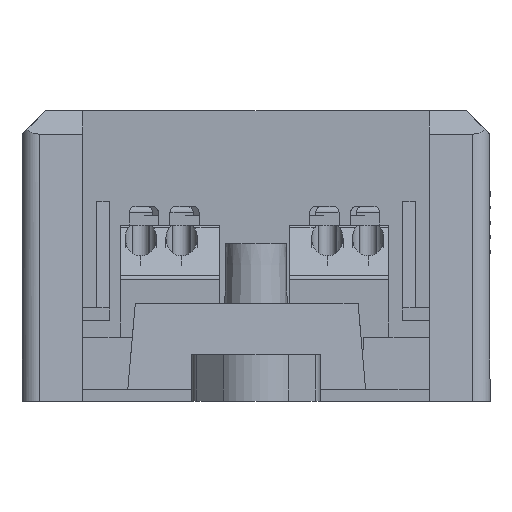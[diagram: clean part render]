
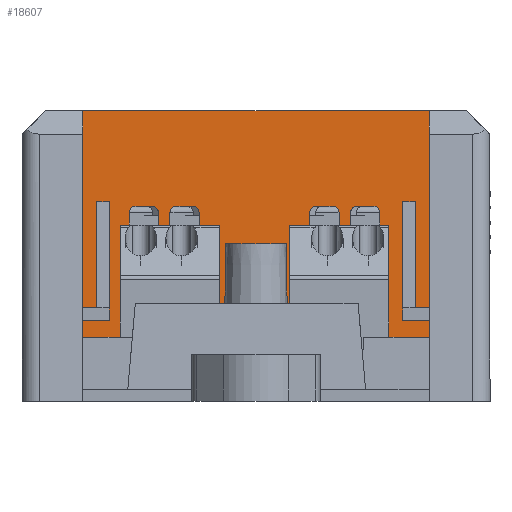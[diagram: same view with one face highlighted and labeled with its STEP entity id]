
A CAD part, front view. The second image highlights one B-rep face of the part: STEP entity #18607.
In plain terms, the highlighted planar face has unit normal (0, -1, 0).
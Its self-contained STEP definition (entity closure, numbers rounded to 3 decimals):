
#45 = LINE ( 'NONE', #4712, #7364 ) ;
#196 = CARTESIAN_POINT ( 'NONE',  ( 38.572, -174.461, 51.967 ) ) ;
#246 = ORIENTED_EDGE ( 'NONE', *, *, #13132, .T. ) ;
#424 = LINE ( 'NONE', #10207, #8206 ) ;
#501 = DIRECTION ( 'NONE',  ( 1., 0., 0. ) ) ;
#758 = VERTEX_POINT ( 'NONE', #4816 ) ;
#1325 = VERTEX_POINT ( 'NONE', #15543 ) ;
#1404 = VERTEX_POINT ( 'NONE', #14131 ) ;
#1443 = CARTESIAN_POINT ( 'NONE',  ( 7.732, -174.461, 51.967 ) ) ;
#1529 = VECTOR ( 'NONE', #13062, 1000. ) ;
#1707 = VECTOR ( 'NONE', #9755, 1000. ) ;
#1732 = CARTESIAN_POINT ( 'NONE',  ( 6.632, -174.461, 51.967 ) ) ;
#1783 = LINE ( 'NONE', #6853, #2237 ) ;
#2074 = VECTOR ( 'NONE', #13409, 1000. ) ;
#2237 = VECTOR ( 'NONE', #8331, 1000. ) ;
#2771 = CARTESIAN_POINT ( 'NONE',  ( 6.632, -174.461, 56.467 ) ) ;
#2775 = VERTEX_POINT ( 'NONE', #5600 ) ;
#2932 = DIRECTION ( 'NONE',  ( -1., 0., 0. ) ) ;
#2933 = CARTESIAN_POINT ( 'NONE',  ( 10.032, -174.461, 58.867 ) ) ;
#3414 = AXIS2_PLACEMENT_3D ( 'NONE', #1443, #11674, #2932 ) ;
#3819 = ORIENTED_EDGE ( 'NONE', *, *, #8112, .F. ) ;
#4667 = VERTEX_POINT ( 'NONE', #13271 ) ;
#4712 = CARTESIAN_POINT ( 'NONE',  ( 7.732, -174.461, 59.967 ) ) ;
#4816 = CARTESIAN_POINT ( 'NONE',  ( 6.632, -174.461, 58.867 ) ) ;
#5319 = ORIENTED_EDGE ( 'NONE', *, *, #16711, .T. ) ;
#5430 = EDGE_CURVE ( 'NONE', #10110, #2775, #45, .T. ) ;
#5586 = LINE ( 'NONE', #16894, #1707 ) ;
#5600 = CARTESIAN_POINT ( 'NONE',  ( 7.732, -174.461, 59.967 ) ) ;
#6217 = ORIENTED_EDGE ( 'NONE', *, *, #18600, .F. ) ;
#6341 = CARTESIAN_POINT ( 'NONE',  ( 37.472, -174.461, 76.867 ) ) ;
#6793 = ORIENTED_EDGE ( 'NONE', *, *, #7798, .T. ) ;
#6853 = CARTESIAN_POINT ( 'NONE',  ( 7.732, -174.461, 58.867 ) ) ;
#6938 = DIRECTION ( 'NONE',  ( 0., 0., -1. ) ) ;
#7070 = EDGE_CURVE ( 'NONE', #758, #11965, #424, .T. ) ;
#7176 = CARTESIAN_POINT ( 'NONE',  ( 10.032, -174.461, 58.867 ) ) ;
#7364 = VECTOR ( 'NONE', #17777, 1000. ) ;
#7457 = VERTEX_POINT ( 'NONE', #12584 ) ;
#7613 = VECTOR ( 'NONE', #18752, 1000. ) ;
#7798 = EDGE_CURVE ( 'NONE', #7457, #4667, #5586, .T. ) ;
#8067 = LINE ( 'NONE', #2933, #7613 ) ;
#8076 = ORIENTED_EDGE ( 'NONE', *, *, #14720, .T. ) ;
#8112 = EDGE_CURVE ( 'NONE', #17552, #1325, #18483, .T. ) ;
#8206 = VECTOR ( 'NONE', #18793, 1000. ) ;
#8274 = EDGE_CURVE ( 'NONE', #18694, #17163, #16223, .T. ) ;
#8331 = DIRECTION ( 'NONE',  ( 1., 0., 0. ) ) ;
#8440 = VECTOR ( 'NONE', #16929, 1000. ) ;
#8496 = EDGE_CURVE ( 'NONE', #1404, #4667, #11542, .T. ) ;
#8830 = ORIENTED_EDGE ( 'NONE', *, *, #8496, .F. ) ;
#8914 = LINE ( 'NONE', #11167, #8440 ) ;
#9317 = LINE ( 'NONE', #15932, #1529 ) ;
#9346 = CARTESIAN_POINT ( 'NONE',  ( 22.602, -174.461, 76.867 ) ) ;
#9755 = DIRECTION ( 'NONE',  ( 0., 0., 1. ) ) ;
#9901 = CARTESIAN_POINT ( 'NONE',  ( 7.732, -174.461, 51.967 ) ) ;
#9918 = CARTESIAN_POINT ( 'NONE',  ( 7.732, -174.461, 59.967 ) ) ;
#9999 = LINE ( 'NONE', #9901, #13381 ) ;
#10110 = VERTEX_POINT ( 'NONE', #11092 ) ;
#10207 = CARTESIAN_POINT ( 'NONE',  ( 7.732, -174.461, 58.867 ) ) ;
#10422 = EDGE_CURVE ( 'NONE', #17462, #758, #14162, .T. ) ;
#11092 = CARTESIAN_POINT ( 'NONE',  ( 10.032, -174.461, 59.967 ) ) ;
#11147 = ORIENTED_EDGE ( 'NONE', *, *, #17307, .F. ) ;
#11167 = CARTESIAN_POINT ( 'NONE',  ( 37.472, -174.461, 51.967 ) ) ;
#11302 = VECTOR ( 'NONE', #16142, 1000. ) ;
#11370 = DIRECTION ( 'NONE',  ( -1., 0., 0. ) ) ;
#11542 = LINE ( 'NONE', #9918, #18721 ) ;
#11610 = PLANE ( 'NONE',  #3414 ) ;
#11674 = DIRECTION ( 'NONE',  ( 0., 1., 0. ) ) ;
#11965 = VERTEX_POINT ( 'NONE', #7176 ) ;
#12584 = CARTESIAN_POINT ( 'NONE',  ( 35.172, -174.461, 58.867 ) ) ;
#12592 = ORIENTED_EDGE ( 'NONE', *, *, #7070, .F. ) ;
#12726 = FACE_OUTER_BOUND ( 'NONE', #14354, .T. ) ;
#13062 = DIRECTION ( 'NONE',  ( -1., 0., 0. ) ) ;
#13132 = EDGE_CURVE ( 'NONE', #18694, #2775, #9999, .T. ) ;
#13224 = CARTESIAN_POINT ( 'NONE',  ( 38.572, -174.461, 58.867 ) ) ;
#13271 = CARTESIAN_POINT ( 'NONE',  ( 35.172, -174.461, 59.967 ) ) ;
#13381 = VECTOR ( 'NONE', #6938, 1000. ) ;
#13409 = DIRECTION ( 'NONE',  ( 0., 0., 1. ) ) ;
#14131 = CARTESIAN_POINT ( 'NONE',  ( 37.472, -174.461, 59.967 ) ) ;
#14162 = LINE ( 'NONE', #1732, #2074 ) ;
#14354 = EDGE_LOOP ( 'NONE', ( #18645, #6217, #3819, #11147, #6793, #8830, #5319, #15524, #246, #14732, #8076, #12592 ) ) ;
#14720 = EDGE_CURVE ( 'NONE', #10110, #11965, #8067, .T. ) ;
#14732 = ORIENTED_EDGE ( 'NONE', *, *, #5430, .F. ) ;
#15342 = VECTOR ( 'NONE', #501, 1000. ) ;
#15524 = ORIENTED_EDGE ( 'NONE', *, *, #8274, .F. ) ;
#15543 = CARTESIAN_POINT ( 'NONE',  ( 38.572, -174.461, 56.467 ) ) ;
#15932 = CARTESIAN_POINT ( 'NONE',  ( 7.732, -174.461, 56.467 ) ) ;
#16142 = DIRECTION ( 'NONE',  ( 0., 0., -1. ) ) ;
#16171 = CARTESIAN_POINT ( 'NONE',  ( 7.732, -174.461, 76.867 ) ) ;
#16223 = LINE ( 'NONE', #9346, #15342 ) ;
#16711 = EDGE_CURVE ( 'NONE', #1404, #17163, #8914, .T. ) ;
#16894 = CARTESIAN_POINT ( 'NONE',  ( 35.172, -174.461, 58.867 ) ) ;
#16929 = DIRECTION ( 'NONE',  ( 0., 0., 1. ) ) ;
#17163 = VERTEX_POINT ( 'NONE', #6341 ) ;
#17307 = EDGE_CURVE ( 'NONE', #7457, #17552, #1783, .T. ) ;
#17462 = VERTEX_POINT ( 'NONE', #2771 ) ;
#17552 = VERTEX_POINT ( 'NONE', #13224 ) ;
#17777 = DIRECTION ( 'NONE',  ( -1., 0., 0. ) ) ;
#18483 = LINE ( 'NONE', #196, #11302 ) ;
#18600 = EDGE_CURVE ( 'NONE', #1325, #17462, #9317, .T. ) ;
#18607 = ADVANCED_FACE ( 'NONE', ( #12726 ), #11610, .F. ) ;
#18645 = ORIENTED_EDGE ( 'NONE', *, *, #10422, .F. ) ;
#18694 = VERTEX_POINT ( 'NONE', #16171 ) ;
#18721 = VECTOR ( 'NONE', #11370, 1000. ) ;
#18752 = DIRECTION ( 'NONE',  ( 0., 0., -1. ) ) ;
#18793 = DIRECTION ( 'NONE',  ( 1., 0., 0. ) ) ;
